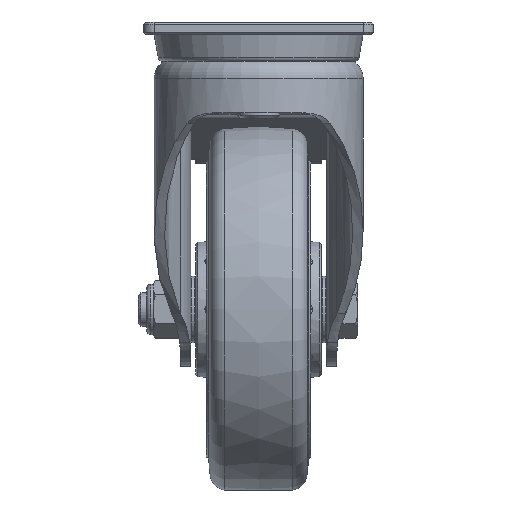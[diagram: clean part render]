
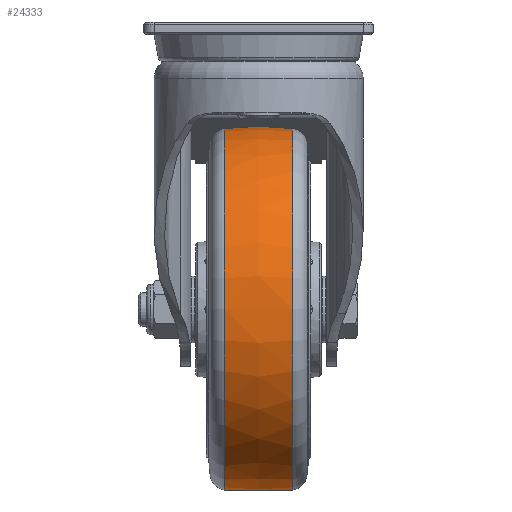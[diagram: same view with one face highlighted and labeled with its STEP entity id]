
A CAD part, left-side view. The second image highlights one B-rep face of the part: STEP entity #24333.
In plain terms, the highlighted free-form (B-spline) face has degree [2, 2] with [3, 9] control points.
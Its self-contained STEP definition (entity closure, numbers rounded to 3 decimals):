
#24=(
BOUNDED_SURFACE()
B_SPLINE_SURFACE(2,2,((#41187,#41188,#41189,#41190,#41191,#41192,#41193,
#41194,#41195),(#41196,#41197,#41198,#41199,#41200,#41201,#41202,#41203,
#41204),(#41205,#41206,#41207,#41208,#41209,#41210,#41211,#41212,#41213)),
 .UNSPECIFIED.,.F.,.T.,.F.)
B_SPLINE_SURFACE_WITH_KNOTS((3,3),(3,2,2,2,3),(-0.137,0.137),
(-3.142,-1.571,0.,1.571,3.142),
 .UNSPECIFIED.)
GEOMETRIC_REPRESENTATION_ITEM()
RATIONAL_B_SPLINE_SURFACE(((1.,0.707,1.,0.707,1.,
0.707,1.,0.707,1.),(0.991,0.701,
0.991,0.701,0.991,0.701,
0.991,0.701,0.991),(1.,0.707,
1.,0.707,1.,0.707,1.,0.707,1.)))
REPRESENTATION_ITEM('')
SURFACE()
);
#2389=CIRCLE('',#26058,86.379);
#2393=CIRCLE('',#26062,86.379);
#2394=CIRCLE('',#26063,120.);
#4109=FACE_OUTER_BOUND('',#5700,.T.);
#5700=EDGE_LOOP('',(#19720,#19721,#19722,#19723));
#10808=VERTEX_POINT('',#41180);
#10811=VERTEX_POINT('',#41214);
#13856=EDGE_CURVE('',#10808,#10808,#2389,.T.);
#13860=EDGE_CURVE('',#10811,#10811,#2393,.T.);
#13861=EDGE_CURVE('',#10811,#10808,#2394,.T.);
#19720=ORIENTED_EDGE('',*,*,#13860,.F.);
#19721=ORIENTED_EDGE('',*,*,#13861,.T.);
#19722=ORIENTED_EDGE('',*,*,#13856,.F.);
#19723=ORIENTED_EDGE('',*,*,#13861,.F.);
#24333=ADVANCED_FACE('',(#4109),#24,.F.);
#26058=AXIS2_PLACEMENT_3D('',#41181,#30256,#30257);
#26062=AXIS2_PLACEMENT_3D('',#41215,#30264,#30265);
#26063=AXIS2_PLACEMENT_3D('',#41216,#30266,#30267);
#30256=DIRECTION('center_axis',(0.,-1.,0.));
#30257=DIRECTION('ref_axis',(0.,0.,
-1.));
#30264=DIRECTION('center_axis',(0.,1.,0.));
#30265=DIRECTION('ref_axis',(0.,0.,
-1.));
#30266=DIRECTION('center_axis',(0.,0.,
-1.));
#30267=DIRECTION('ref_axis',(1.,0.,0.));
#41180=CARTESIAN_POINT('',(146.379,-16.365,-137.525));
#41181=CARTESIAN_POINT('Origin',(60.,-16.365,-137.525));
#41187=CARTESIAN_POINT('Ctrl Pts',(146.379,-16.365,-137.525));
#41188=CARTESIAN_POINT('Ctrl Pts',(146.379,-16.365,-223.904));
#41189=CARTESIAN_POINT('Ctrl Pts',(60.,-16.365,-223.904));
#41190=CARTESIAN_POINT('Ctrl Pts',(-26.379,-16.365,
-223.904));
#41191=CARTESIAN_POINT('Ctrl Pts',(-26.379,-16.365,
-137.525));
#41192=CARTESIAN_POINT('Ctrl Pts',(-26.379,-16.365,
-51.146));
#41193=CARTESIAN_POINT('Ctrl Pts',(60.,-16.365,-51.146));
#41194=CARTESIAN_POINT('Ctrl Pts',(146.379,-16.365,-51.146));
#41195=CARTESIAN_POINT('Ctrl Pts',(146.379,-16.365,-137.525));
#41196=CARTESIAN_POINT('Ctrl Pts',(148.632,0.,
-137.525));
#41197=CARTESIAN_POINT('Ctrl Pts',(148.632,0.,
-226.157));
#41198=CARTESIAN_POINT('Ctrl Pts',(60.,0.,-226.157));
#41199=CARTESIAN_POINT('Ctrl Pts',(-28.632,0.,
-226.157));
#41200=CARTESIAN_POINT('Ctrl Pts',(-28.632,0.,
-137.525));
#41201=CARTESIAN_POINT('Ctrl Pts',(-28.632,0.,
-48.893));
#41202=CARTESIAN_POINT('Ctrl Pts',(60.,0.,-48.893));
#41203=CARTESIAN_POINT('Ctrl Pts',(148.632,0.,
-48.893));
#41204=CARTESIAN_POINT('Ctrl Pts',(148.632,0.,
-137.525));
#41205=CARTESIAN_POINT('Ctrl Pts',(146.379,16.365,-137.525));
#41206=CARTESIAN_POINT('Ctrl Pts',(146.379,16.365,-223.904));
#41207=CARTESIAN_POINT('Ctrl Pts',(60.,16.365,-223.904));
#41208=CARTESIAN_POINT('Ctrl Pts',(-26.379,16.365,-223.904));
#41209=CARTESIAN_POINT('Ctrl Pts',(-26.379,16.365,-137.525));
#41210=CARTESIAN_POINT('Ctrl Pts',(-26.379,16.365,-51.146));
#41211=CARTESIAN_POINT('Ctrl Pts',(60.,16.365,-51.146));
#41212=CARTESIAN_POINT('Ctrl Pts',(146.379,16.365,-51.146));
#41213=CARTESIAN_POINT('Ctrl Pts',(146.379,16.365,-137.525));
#41214=CARTESIAN_POINT('',(146.379,16.365,-137.525));
#41215=CARTESIAN_POINT('Origin',(60.,16.365,-137.525));
#41216=CARTESIAN_POINT('Origin',(27.5,0.,-137.525));
